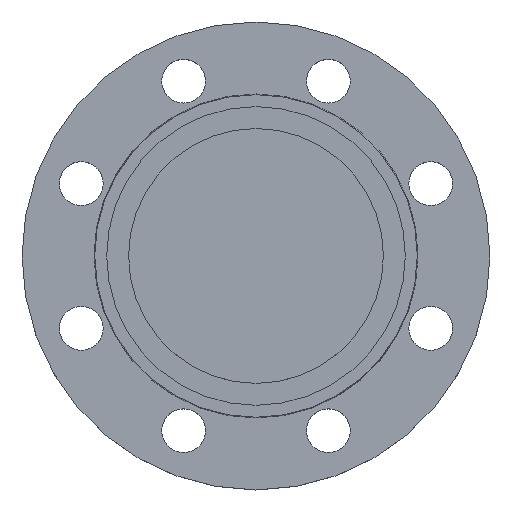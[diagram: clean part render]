
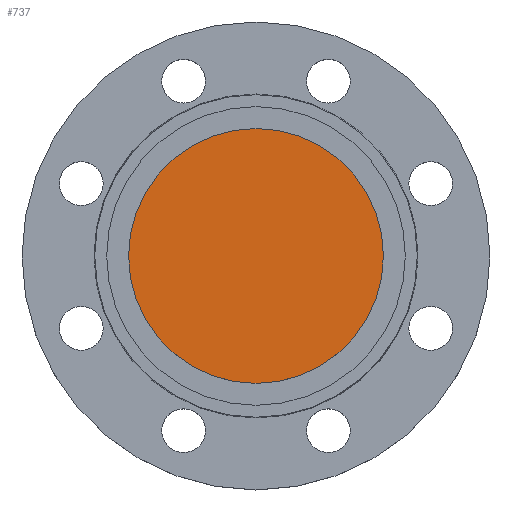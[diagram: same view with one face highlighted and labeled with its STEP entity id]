
A CAD part, top view. The second image highlights one B-rep face of the part: STEP entity #737.
In plain terms, the highlighted planar face has unit normal (0, 0, 1).
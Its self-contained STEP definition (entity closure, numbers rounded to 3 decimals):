
#121 = CIRCLE ( 'NONE', #419, 64. ) ;
#157 = DIRECTION ( 'NONE',  ( -1., 0., 0. ) ) ;
#158 = DIRECTION ( 'NONE',  ( 0., 0., -1. ) ) ;
#159 = CARTESIAN_POINT ( 'NONE',  ( 0., 0., 0. ) ) ;
#160 = DIRECTION ( 'NONE',  ( 1., 0., 0. ) ) ;
#161 = DIRECTION ( 'NONE',  ( 0., 0., 1. ) ) ;
#162 = CARTESIAN_POINT ( 'NONE',  ( 0., 0., 0. ) ) ;
#163 = PLANE ( 'NONE',  #409 ) ;
#164 = FACE_OUTER_BOUND ( 'NONE', #925, .T. ) ;
#248 = CARTESIAN_POINT ( 'NONE',  ( -64., 0., 0. ) ) ;
#274 = CARTESIAN_POINT ( 'NONE',  ( 64., 0., 0. ) ) ;
#279 = DIRECTION ( 'NONE',  ( -1., 0., 0. ) ) ;
#280 = DIRECTION ( 'NONE',  ( 0., 0., -1. ) ) ;
#281 = CARTESIAN_POINT ( 'NONE',  ( 0., 0., 0. ) ) ;
#409 = AXIS2_PLACEMENT_3D ( 'NONE', #162, #161, #160 ) ;
#417 = CIRCLE ( 'NONE', #427, 64. ) ;
#419 = AXIS2_PLACEMENT_3D ( 'NONE', #281, #280, #279 ) ;
#427 = AXIS2_PLACEMENT_3D ( 'NONE', #159, #158, #157 ) ;
#629 = EDGE_CURVE ( 'NONE', #632, #649, #121, .T. ) ;
#632 = VERTEX_POINT ( 'NONE', #274 ) ;
#649 = VERTEX_POINT ( 'NONE', #248 ) ;
#737 = ADVANCED_FACE ( 'NONE', ( #164 ), #163, .T. ) ;
#738 = EDGE_CURVE ( 'NONE', #649, #632, #417, .T. ) ;
#848 = ORIENTED_EDGE ( 'NONE', *, *, #738, .F. ) ;
#849 = ORIENTED_EDGE ( 'NONE', *, *, #629, .F. ) ;
#925 = EDGE_LOOP ( 'NONE', ( #848, #849 ) ) ;
